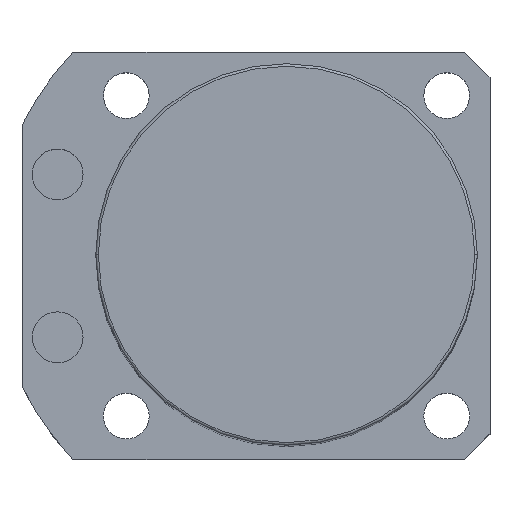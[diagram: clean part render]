
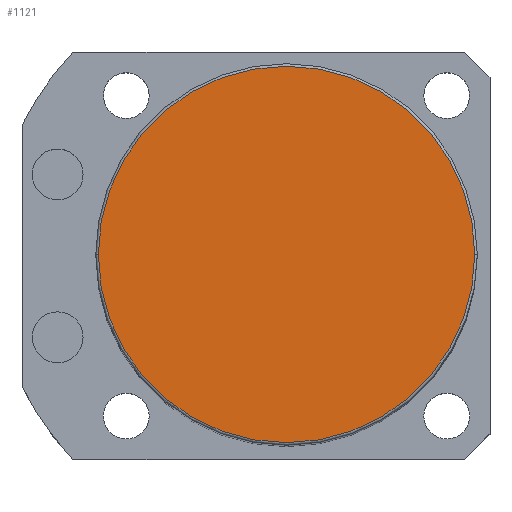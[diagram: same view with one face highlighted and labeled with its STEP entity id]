
A CAD part, top view. The second image highlights one B-rep face of the part: STEP entity #1121.
In plain terms, the highlighted planar face has unit normal (0, 0, 1).
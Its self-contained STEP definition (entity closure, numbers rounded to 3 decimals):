
#33 = CARTESIAN_POINT ( 'NONE',  ( 37., 0., 175.5 ) ) ;
#35 = AXIS2_PLACEMENT_3D ( 'NONE', #1778, #2205, #2638 ) ;
#175 = EDGE_LOOP ( 'NONE', ( #2819, #1882 ) ) ;
#228 = PLANE ( 'NONE',  #35 ) ;
#283 = AXIS2_PLACEMENT_3D ( 'NONE', #1999, #1349, #1991 ) ;
#297 = CARTESIAN_POINT ( 'NONE',  ( 0., 0., 175.5 ) ) ;
#1121 = ADVANCED_FACE ( 'NONE', ( #2183 ), #228, .T. ) ;
#1136 = VERTEX_POINT ( 'NONE', #2628 ) ;
#1224 = EDGE_CURVE ( 'NONE', #1136, #1761, #1910, .T. ) ;
#1349 = DIRECTION ( 'NONE',  ( 0., 0., 1. ) ) ;
#1484 = EDGE_CURVE ( 'NONE', #1761, #1136, #2442, .T. ) ;
#1653 = DIRECTION ( 'NONE',  ( 0., 0., 1. ) ) ;
#1761 = VERTEX_POINT ( 'NONE', #33 ) ;
#1778 = CARTESIAN_POINT ( 'NONE',  ( 0., 0., 175.5 ) ) ;
#1869 = DIRECTION ( 'NONE',  ( 1., 0., 0. ) ) ;
#1882 = ORIENTED_EDGE ( 'NONE', *, *, #1224, .T. ) ;
#1910 = CIRCLE ( 'NONE', #2311, 37. ) ;
#1991 = DIRECTION ( 'NONE',  ( 1., 0., 0. ) ) ;
#1999 = CARTESIAN_POINT ( 'NONE',  ( 0., 0., 175.5 ) ) ;
#2183 = FACE_OUTER_BOUND ( 'NONE', #175, .T. ) ;
#2205 = DIRECTION ( 'NONE',  ( 0., 0., 1. ) ) ;
#2311 = AXIS2_PLACEMENT_3D ( 'NONE', #297, #1653, #1869 ) ;
#2442 = CIRCLE ( 'NONE', #283, 37. ) ;
#2628 = CARTESIAN_POINT ( 'NONE',  ( -37., 0., 175.5 ) ) ;
#2638 = DIRECTION ( 'NONE',  ( 1., 0., 0. ) ) ;
#2819 = ORIENTED_EDGE ( 'NONE', *, *, #1484, .T. ) ;
